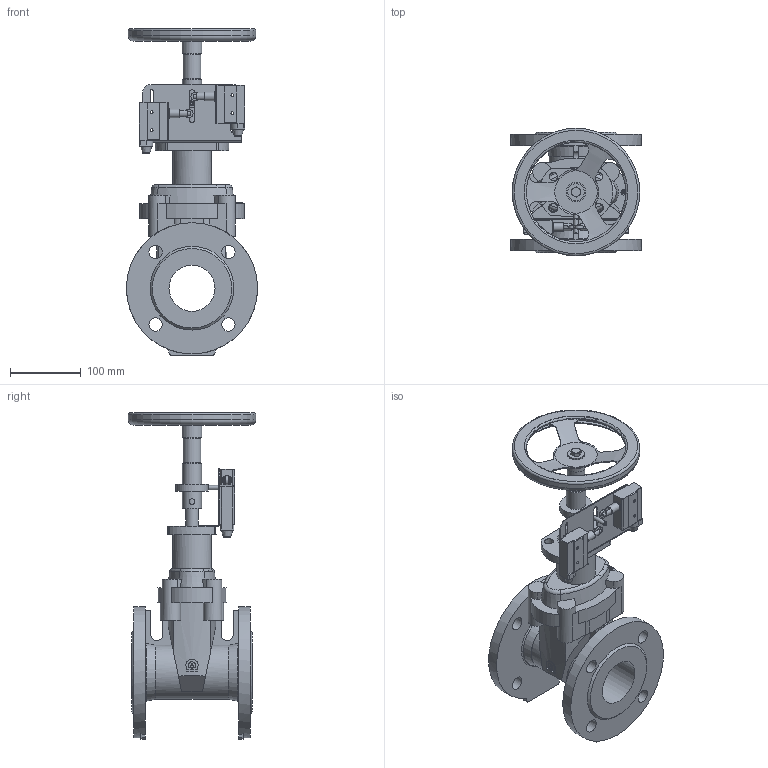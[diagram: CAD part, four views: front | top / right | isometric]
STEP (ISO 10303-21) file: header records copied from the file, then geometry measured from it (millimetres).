
FILE_DESCRIPTION(('STEP AP203'), '1');
FILE_NAME('Çàäâèæêà 47GV.M DN65 ñ ìàõîâèêîì è ÓÊÏ', '', ('UNSPECIFIED'), ('UNSPECIFIED'), 'ASCON STEP Converter 1.6', 'ASCON Math Kernel', '');
FILE_SCHEMA(('CONFIG_CONTROL_DESIGN'));
Length unit declared in the file: millimetre
Bounding box: 185 x 180 x 460.5 mm (x, y, z)
Volume: 2312735.2 mm3; surface area: 379969.9 mm2
Topology: 3 solids, 3 shells, 410 faces, 1046 edges, 666 vertices
Faces by surface type: plane 206, cylinder 164, cone 20, torus 16, sphere 4
Full cylindrical faces by diameter (mm): 4 x4, 6 x1, 8 x2, 12 x8, 13 x2, 14 x2, 18 x1, 19 x8, 24 x1, 25 x1, 27 x2, 28 x1, 46 x1, 52 x1, 55 x1, 65 x1, 143 x1, 177 x1, 180 x1, 185 x2
Entity records: 19001 total; most frequent: CARTESIAN_POINT 5828, DIRECTION 2078, ORIENTED_EDGE 1958, EDGE_CURVE 979, AXIS2_PLACEMENT_3D 799, VERTEX_POINT 666, EDGE_LOOP 547, LINE 480
